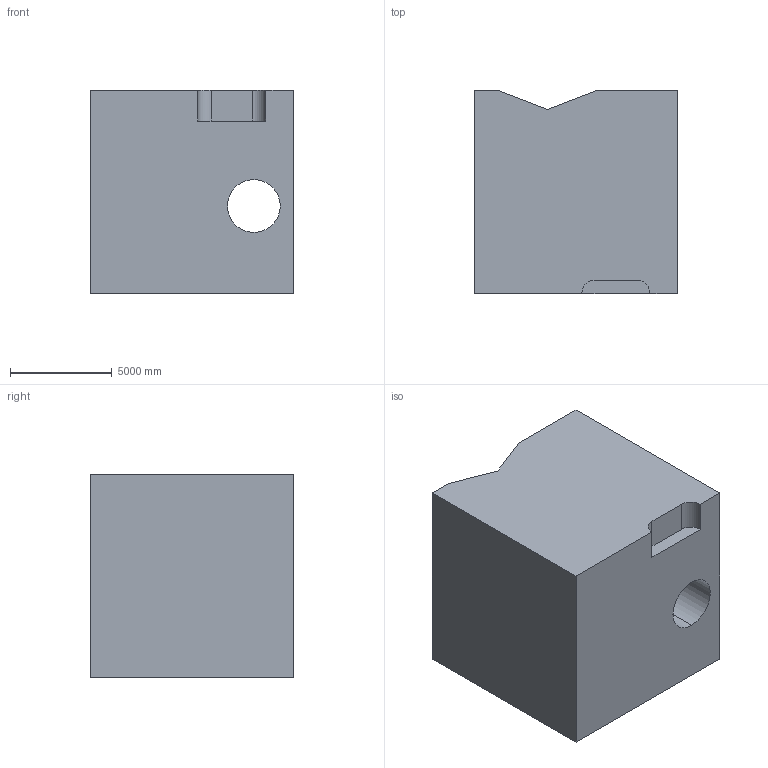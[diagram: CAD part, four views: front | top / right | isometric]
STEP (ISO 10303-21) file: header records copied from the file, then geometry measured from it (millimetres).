
FILE_DESCRIPTION (( 'STEP AP203' ), '1' );
FILE_NAME ('374.STEP', '2022-07-29T11:02:42', ( 'user' ), ( '' ), 'SwSTEP 2.0', 'SolidWorks 2021', '' );
FILE_SCHEMA (( 'CONFIG_CONTROL_DESIGN' ));
Length unit declared in the file: centimetre
Products named in the file (1): 374
Bounding box: 10000 x 10000 x 10000 mm (x, y, z)
Volume: 886745281954.1 mm3; surface area: 730249744.8 mm2
Topology: 1 solids, 1 shells, 19 faces, 51 edges, 34 vertices
Faces by surface type: plane 15, cylinder 4
Entity records: 674 total; most frequent: CARTESIAN_POINT 105, ORIENTED_EDGE 102, DIRECTION 99, EDGE_CURVE 51, VECTOR 43, LINE 43, VERTEX_POINT 34, AXIS2_PLACEMENT_3D 28
